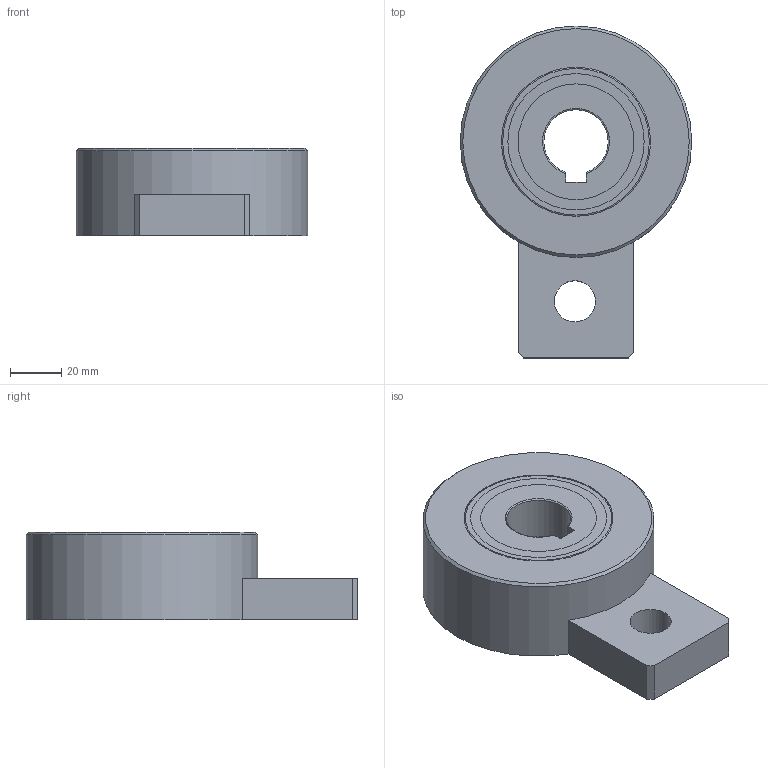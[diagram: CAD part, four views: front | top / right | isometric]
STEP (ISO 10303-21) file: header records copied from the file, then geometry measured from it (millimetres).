
FILE_DESCRIPTION(/* description */ (''),/* implementation_level */ '2;1');
FILE_NAME(/* name */ '301043 RA 453 Z.stp',/* time_stamp */ '2016-11-17T09:51:33+01:00',/* author */ (''),/* organization */ (''),/* preprocessor_version */ 'ST-DEVELOPER v15',/* originating_system */ 'SIEMENS PLM Software NX 8.5',/* authorisation */ '');
FILE_SCHEMA (('CONFIG_CONTROL_DESIGN'));
Length unit declared in the file: millimetre
Products named in the file (5): ATE0000080_01; ATE0000091_01; ATE0000094_01; ATE0000092_01_MODELL; ATE0000096_01
Assembly tree (4 placements, depth 3):
  ATE0000096_01
    ATE0000094_01
    ATE0000092_01_MODELL
      ATE0000091_01
      ATE0000080_01
Bounding box: 90 x 129 x 34 mm (x, y, z)
Volume: 216789.4 mm3; surface area: 63858.8 mm2
Topology: 6 solids, 6 shells, 91 faces, 202 edges, 133 vertices
Faces by surface type: plane 57, cylinder 27, torus 6, cone 1
Full cylindrical faces by diameter (mm): 16 x1, 45 x5, 49 x1, 51 x1, 52 x2, 53 x5, 58 x2, 90 x1
Entity records: 2961 total; most frequent: CARTESIAN_POINT 467, DIRECTION 434, ORIENTED_EDGE 340, AXIS2_PLACEMENT_3D 172, EDGE_CURVE 170, EDGE_LOOP 140, VERTEX_POINT 126, ADVANCED_FACE 91
